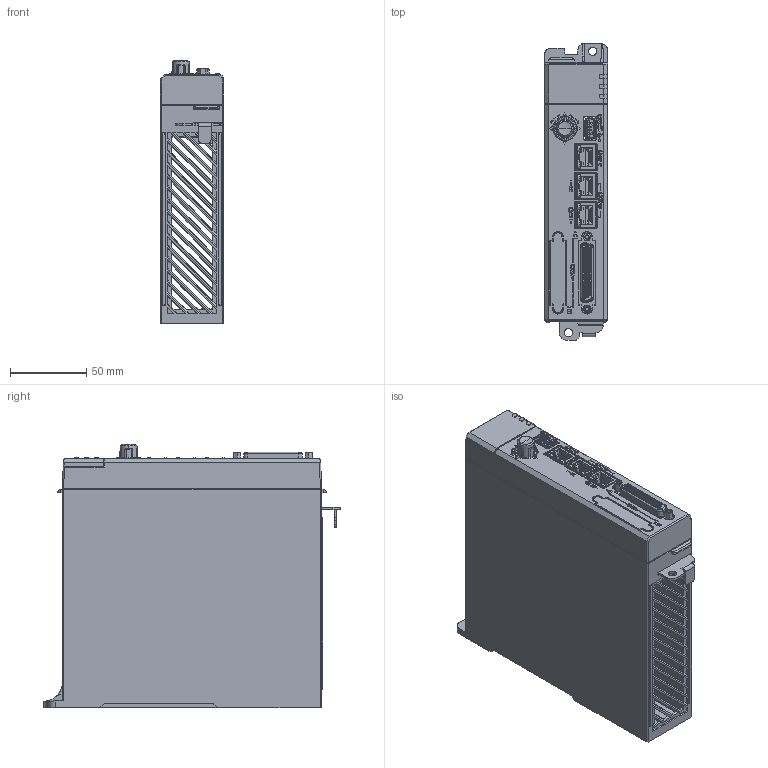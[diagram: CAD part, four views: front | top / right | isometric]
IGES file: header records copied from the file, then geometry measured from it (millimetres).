
Start section:  PTC IGES file: DELTA_IA-ASDA_W3-CM04E-S_FRAME-A_D-3D-IGS_20231107.igs
Global section: file name: DELTA_IA-ASDA_W3-CM04E-S_FRAME-A_D-3D-IGS_20231107.igs; native system: Creo Parametric by PTC Inc.; preprocessor: 2018400; author: FREDGT.HUANG; organization: Unknown; date: 20240216.155144; units: millimetre
Bounding box: 42.01 x 195 x 172.9 mm (x, y, z)
Surface area: 242496.4 mm2 (no closed solid volume)
Topology: 0 solids, 0 shells, 7646 faces, 43100 edges, 43094 vertices
Faces by surface type: bspline 6020, revolution 1580, extrusion 46
